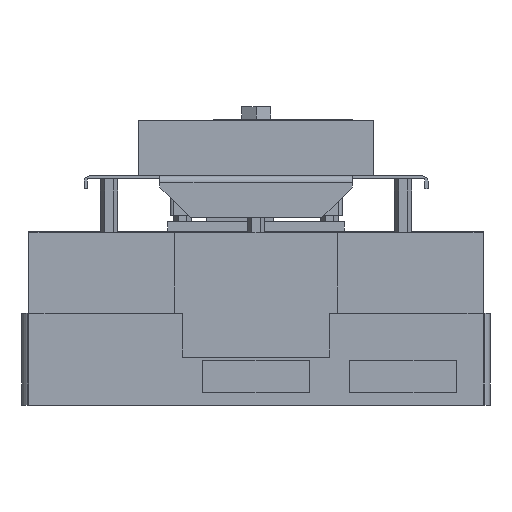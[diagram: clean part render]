
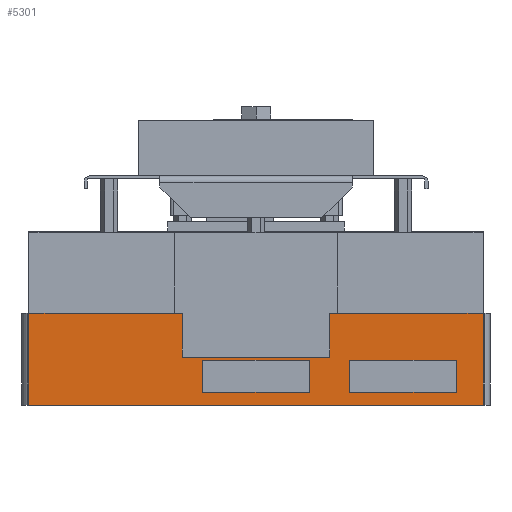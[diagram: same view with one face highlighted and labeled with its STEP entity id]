
A CAD part, front view. The second image highlights one B-rep face of the part: STEP entity #5301.
In plain terms, the highlighted planar face has unit normal (0, -1, 0).
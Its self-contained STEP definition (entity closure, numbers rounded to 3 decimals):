
#28 = LINE ( 'NONE', #8367, #5408 ) ;
#55 = LINE ( 'NONE', #1173, #1832 ) ;
#208 = EDGE_CURVE ( 'NONE', #8040, #5959, #2145, .T. ) ;
#227 = AXIS2_PLACEMENT_3D ( 'NONE', #3814, #451, #5170 ) ;
#260 = EDGE_CURVE ( 'NONE', #8405, #5959, #1297, .T. ) ;
#369 = EDGE_CURVE ( 'NONE', #8405, #4321, #5846, .T. ) ;
#372 = EDGE_CURVE ( 'NONE', #6442, #6144, #684, .T. ) ;
#451 = DIRECTION ( 'NONE',  ( 0., 1., 0. ) ) ;
#485 = LINE ( 'NONE', #7579, #5865 ) ;
#508 = FACE_OUTER_BOUND ( 'NONE', #1336, .T. ) ;
#611 = VERTEX_POINT ( 'NONE', #6261 ) ;
#684 = LINE ( 'NONE', #7531, #2245 ) ;
#760 = DIRECTION ( 'NONE',  ( 1., 0., 0. ) ) ;
#785 = ORIENTED_EDGE ( 'NONE', *, *, #260, .F. ) ;
#822 = ORIENTED_EDGE ( 'NONE', *, *, #2894, .F. ) ;
#978 = EDGE_CURVE ( 'NONE', #611, #8040, #3929, .T. ) ;
#1008 = CARTESIAN_POINT ( 'NONE',  ( 400., 0., 32. ) ) ;
#1095 = LINE ( 'NONE', #7302, #6488 ) ;
#1098 = ORIENTED_EDGE ( 'NONE', *, *, #6185, .T. ) ;
#1165 = LINE ( 'NONE', #7198, #4545 ) ;
#1166 = CARTESIAN_POINT ( 'NONE',  ( 0., 0., 0. ) ) ;
#1173 = CARTESIAN_POINT ( 'NONE',  ( 262.5, 0., 12. ) ) ;
#1197 = EDGE_CURVE ( 'NONE', #7606, #7723, #7008, .T. ) ;
#1241 = DIRECTION ( 'NONE',  ( 0., 0., 1. ) ) ;
#1264 = CARTESIAN_POINT ( 'NONE',  ( 143.7, 0., 45. ) ) ;
#1283 = CARTESIAN_POINT ( 'NONE',  ( 281.3, 0., 45. ) ) ;
#1297 = LINE ( 'NONE', #6634, #2892 ) ;
#1336 = EDGE_LOOP ( 'NONE', ( #7686, #5034, #3348, #5880, #5259, #785, #7043, #1460 ) ) ;
#1452 = EDGE_CURVE ( 'NONE', #4060, #4824, #6460, .T. ) ;
#1460 = ORIENTED_EDGE ( 'NONE', *, *, #7908, .F. ) ;
#1574 = VERTEX_POINT ( 'NONE', #6548 ) ;
#1606 = CARTESIAN_POINT ( 'NONE',  ( 400., 0., 12. ) ) ;
#1651 = VECTOR ( 'NONE', #3712, 1000. ) ;
#1746 = EDGE_LOOP ( 'NONE', ( #7988, #822, #3473, #1098 ) ) ;
#1776 = VERTEX_POINT ( 'NONE', #8211 ) ;
#1801 = VECTOR ( 'NONE', #6732, 1000. ) ;
#1832 = VECTOR ( 'NONE', #8589, 1000. ) ;
#1850 = CARTESIAN_POINT ( 'NONE',  ( 425., 0., 0. ) ) ;
#1865 = DIRECTION ( 'NONE',  ( 1., 0., 0. ) ) ;
#1932 = LINE ( 'NONE', #8239, #5317 ) ;
#1997 = CARTESIAN_POINT ( 'NONE',  ( 162.5, 0., 12. ) ) ;
#1998 = CARTESIAN_POINT ( 'NONE',  ( 162.5, 0., 12. ) ) ;
#2008 = EDGE_CURVE ( 'NONE', #4060, #1574, #1165, .T. ) ;
#2080 = FACE_BOUND ( 'NONE', #3873, .T. ) ;
#2145 = LINE ( 'NONE', #6751, #5536 ) ;
#2245 = VECTOR ( 'NONE', #1865, 1000. ) ;
#2325 = CARTESIAN_POINT ( 'NONE',  ( 300., 0., 32. ) ) ;
#2656 = DIRECTION ( 'NONE',  ( 0., 0., -1. ) ) ;
#2836 = DIRECTION ( 'NONE',  ( 1., 0., 0. ) ) ;
#2870 = VECTOR ( 'NONE', #5071, 1000. ) ;
#2892 = VECTOR ( 'NONE', #2656, 1000. ) ;
#2894 = EDGE_CURVE ( 'NONE', #7606, #1776, #55, .T. ) ;
#2901 = CARTESIAN_POINT ( 'NONE',  ( 425., 0., 86. ) ) ;
#2944 = CARTESIAN_POINT ( 'NONE',  ( 262.5, 0., 32. ) ) ;
#3198 = CARTESIAN_POINT ( 'NONE',  ( 300., 0., 12. ) ) ;
#3220 = EDGE_CURVE ( 'NONE', #1776, #6893, #1095, .T. ) ;
#3298 = CARTESIAN_POINT ( 'NONE',  ( 425., 0., 86. ) ) ;
#3328 = VECTOR ( 'NONE', #7684, 1000. ) ;
#3348 = ORIENTED_EDGE ( 'NONE', *, *, #6834, .T. ) ;
#3431 = LINE ( 'NONE', #1008, #1651 ) ;
#3473 = ORIENTED_EDGE ( 'NONE', *, *, #1197, .T. ) ;
#3610 = DIRECTION ( 'NONE',  ( 0., 0., 1. ) ) ;
#3712 = DIRECTION ( 'NONE',  ( 1., 0., 0. ) ) ;
#3814 = CARTESIAN_POINT ( 'NONE',  ( 0., 0., 315. ) ) ;
#3873 = EDGE_LOOP ( 'NONE', ( #8332, #7248, #8526, #6540 ) ) ;
#3897 = DIRECTION ( 'NONE',  ( 0., 0., 1. ) ) ;
#3929 = LINE ( 'NONE', #5815, #7110 ) ;
#4060 = VERTEX_POINT ( 'NONE', #1264 ) ;
#4263 = VECTOR ( 'NONE', #4554, 1000. ) ;
#4321 = VERTEX_POINT ( 'NONE', #4984 ) ;
#4545 = VECTOR ( 'NONE', #7871, 1000. ) ;
#4554 = DIRECTION ( 'NONE',  ( -1., 0., 0. ) ) ;
#4620 = VERTEX_POINT ( 'NONE', #7804 ) ;
#4812 = CARTESIAN_POINT ( 'NONE',  ( 162.5, 0., 32. ) ) ;
#4819 = CARTESIAN_POINT ( 'NONE',  ( 400., 0., 12. ) ) ;
#4824 = VERTEX_POINT ( 'NONE', #1283 ) ;
#4984 = CARTESIAN_POINT ( 'NONE',  ( 281.3, 0., 86. ) ) ;
#5001 = VECTOR ( 'NONE', #3897, 1000. ) ;
#5034 = ORIENTED_EDGE ( 'NONE', *, *, #2008, .T. ) ;
#5071 = DIRECTION ( 'NONE',  ( 1., 0., 0. ) ) ;
#5170 = DIRECTION ( 'NONE',  ( 0., 0., 1. ) ) ;
#5259 = ORIENTED_EDGE ( 'NONE', *, *, #208, .T. ) ;
#5301 = ADVANCED_FACE ( 'NONE', ( #508, #5689, #2080 ), #5821, .F. ) ;
#5317 = VECTOR ( 'NONE', #7600, 1000. ) ;
#5408 = VECTOR ( 'NONE', #3610, 1000. ) ;
#5536 = VECTOR ( 'NONE', #760, 1000. ) ;
#5689 = FACE_BOUND ( 'NONE', #1746, .T. ) ;
#5746 = CARTESIAN_POINT ( 'NONE',  ( 300., 0., 12. ) ) ;
#5769 = VERTEX_POINT ( 'NONE', #2325 ) ;
#5800 = EDGE_CURVE ( 'NONE', #5769, #4620, #3431, .T. ) ;
#5815 = CARTESIAN_POINT ( 'NONE',  ( 0., 0., 315. ) ) ;
#5821 = PLANE ( 'NONE',  #227 ) ;
#5846 = LINE ( 'NONE', #3298, #4263 ) ;
#5865 = VECTOR ( 'NONE', #2836, 1000. ) ;
#5880 = ORIENTED_EDGE ( 'NONE', *, *, #978, .T. ) ;
#5959 = VERTEX_POINT ( 'NONE', #1850 ) ;
#6144 = VERTEX_POINT ( 'NONE', #4819 ) ;
#6185 = EDGE_CURVE ( 'NONE', #7723, #6893, #485, .T. ) ;
#6261 = CARTESIAN_POINT ( 'NONE',  ( 0., 0., 86. ) ) ;
#6442 = VERTEX_POINT ( 'NONE', #5746 ) ;
#6460 = LINE ( 'NONE', #7089, #2870 ) ;
#6488 = VECTOR ( 'NONE', #1241, 1000. ) ;
#6540 = ORIENTED_EDGE ( 'NONE', *, *, #5800, .T. ) ;
#6548 = CARTESIAN_POINT ( 'NONE',  ( 143.7, 0., 86. ) ) ;
#6634 = CARTESIAN_POINT ( 'NONE',  ( 425., 0., 315. ) ) ;
#6732 = DIRECTION ( 'NONE',  ( 0., 0., 1. ) ) ;
#6751 = CARTESIAN_POINT ( 'NONE',  ( 0., 0., 0. ) ) ;
#6834 = EDGE_CURVE ( 'NONE', #1574, #611, #1932, .T. ) ;
#6893 = VERTEX_POINT ( 'NONE', #2944 ) ;
#7008 = LINE ( 'NONE', #1998, #1801 ) ;
#7043 = ORIENTED_EDGE ( 'NONE', *, *, #369, .T. ) ;
#7089 = CARTESIAN_POINT ( 'NONE',  ( 143.7, 0., 45. ) ) ;
#7110 = VECTOR ( 'NONE', #8546, 1000. ) ;
#7198 = CARTESIAN_POINT ( 'NONE',  ( 143.7, 0., 45. ) ) ;
#7248 = ORIENTED_EDGE ( 'NONE', *, *, #372, .F. ) ;
#7302 = CARTESIAN_POINT ( 'NONE',  ( 262.5, 0., 12. ) ) ;
#7459 = EDGE_CURVE ( 'NONE', #6442, #5769, #8594, .T. ) ;
#7531 = CARTESIAN_POINT ( 'NONE',  ( 400., 0., 12. ) ) ;
#7579 = CARTESIAN_POINT ( 'NONE',  ( 262.5, 0., 32. ) ) ;
#7600 = DIRECTION ( 'NONE',  ( -1., 0., 0. ) ) ;
#7606 = VERTEX_POINT ( 'NONE', #1997 ) ;
#7684 = DIRECTION ( 'NONE',  ( 0., 0., 1. ) ) ;
#7686 = ORIENTED_EDGE ( 'NONE', *, *, #1452, .F. ) ;
#7723 = VERTEX_POINT ( 'NONE', #4812 ) ;
#7804 = CARTESIAN_POINT ( 'NONE',  ( 400., 0., 32. ) ) ;
#7871 = DIRECTION ( 'NONE',  ( 0., 0., 1. ) ) ;
#7908 = EDGE_CURVE ( 'NONE', #4824, #4321, #28, .T. ) ;
#7988 = ORIENTED_EDGE ( 'NONE', *, *, #3220, .F. ) ;
#8040 = VERTEX_POINT ( 'NONE', #1166 ) ;
#8211 = CARTESIAN_POINT ( 'NONE',  ( 262.5, 0., 12. ) ) ;
#8239 = CARTESIAN_POINT ( 'NONE',  ( 425., 0., 86. ) ) ;
#8332 = ORIENTED_EDGE ( 'NONE', *, *, #8738, .F. ) ;
#8367 = CARTESIAN_POINT ( 'NONE',  ( 281.3, 0., 45. ) ) ;
#8405 = VERTEX_POINT ( 'NONE', #2901 ) ;
#8526 = ORIENTED_EDGE ( 'NONE', *, *, #7459, .T. ) ;
#8536 = LINE ( 'NONE', #1606, #3328 ) ;
#8546 = DIRECTION ( 'NONE',  ( 0., 0., -1. ) ) ;
#8589 = DIRECTION ( 'NONE',  ( 1., 0., 0. ) ) ;
#8594 = LINE ( 'NONE', #3198, #5001 ) ;
#8738 = EDGE_CURVE ( 'NONE', #6144, #4620, #8536, .T. ) ;
